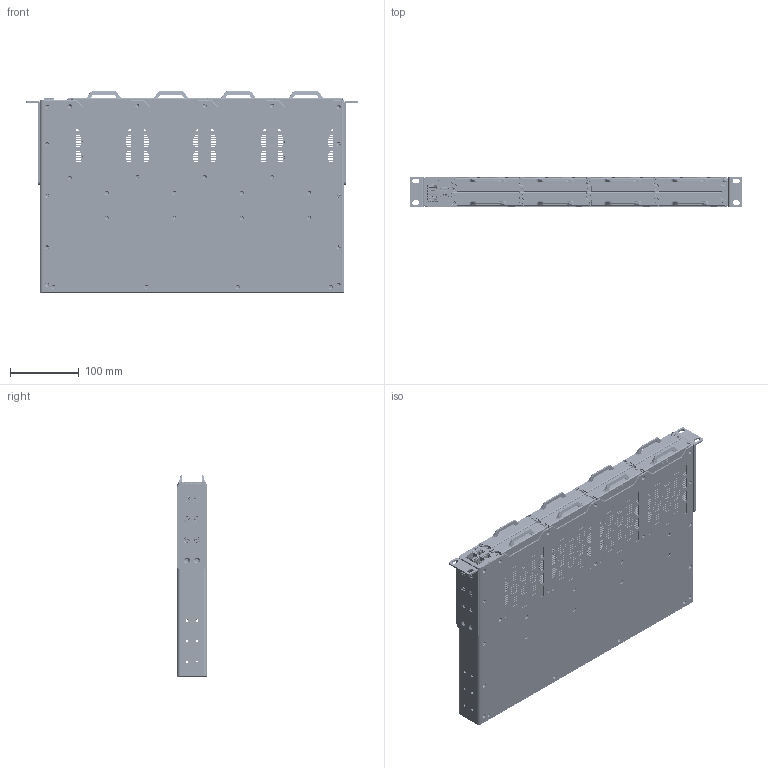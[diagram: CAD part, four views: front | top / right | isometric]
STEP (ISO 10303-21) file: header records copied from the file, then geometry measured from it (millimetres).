
FILE_DESCRIPTION((''),'2;1');
FILE_NAME('00-PT-G7828-VF_ASM','2017-11-10T',('CharlieSW_Chou'),('PTC'),'PRO/ENGINEER BY PARAMETRIC TECHNOLOGY CORPORATION, 2013230','PRO/ENGINEER BY PARAMETRIC TECHNOLOGY CORPORATION, 2013230','');
FILE_SCHEMA(('AUTOMOTIVE_DESIGN { 1 0 10303 214 1 1 1 1 }'));
Products named in the file (87): G7828-BOT-COVER; PIN-P3-H5; PIN-P3-H30; BSO-P55-H15; BSO-P55-H20; BSO-P55-H5; 02-G7828-BOT-COVER_ASM; IO-BEAM-VLIGHT-FORLED; M3-CU-TOOTH; LED-BEAM_ASM; IO-BEAM-VLIGHT; IO-BEAM34_ASM; IO-BEAM56_ASM; IO-BEAMP1P2_ASM; G7828-SW-LED; G7828-SW-MODULE; G7828-SW-MOD_ASM; G7828-F-PANEL; G7828-FRONT-NAMEPLATE; 02-G7828-FRONT-COVER_ASM; G7828-RL; G7828-RL-TAPE; KY-LP-LEM-133; LED-SPONGE; 02-G7828-RL_ASM; G7828_TOP_COVER; G7828-RR; G7828-RR-TAPE; 02-G7828-RR_ASM; GASKET-FLEXLINK; 1402221010031FMS3X5; 01-G7828-CASE_ASM; PCB-G7828-SUPER-CAP; RESET; C-1-2007492-5-C-3D; RMX-P110; RM1-P160; RM1-P110-LAST; RM1-C210______; RM1-C220_________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
Assembly tree (199 placements, depth 5):
  00-PT-G7828-VF_ASM
    01-G7828-CASE_ASM
      02-G7828-BOT-COVER_ASM
        G7828-BOT-COVER
        PIN-P3-H5  x8
        PIN-P3-H30  x4
        BSO-P55-H15  x8
        BSO-P55-H20  x5
        BSO-P55-H5  x18
      LED-BEAM_ASM
        IO-BEAM-VLIGHT-FORLED
        M3-CU-TOOTH  x2
      IO-BEAM34_ASM
        IO-BEAM-VLIGHT
        M3-CU-TOOTH  x4
      IO-BEAM56_ASM
        IO-BEAM-VLIGHT
        M3-CU-TOOTH  x4
      IO-BEAMP1P2_ASM
        IO-BEAM-VLIGHT
        M3-CU-TOOTH  x4
      G7828-SW-LED
      G7828-SW-MOD_ASM
        G7828-SW-MODULE
        M3-CU-TOOTH  x2
      02-G7828-FRONT-COVER_ASM
        G7828-F-PANEL
        G7828-FRONT-NAMEPLATE
      02-G7828-RL_ASM
        G7828-RL
        G7828-RL-TAPE
        KY-LP-LEM-133  x5
        LED-SPONGE
      G7828_TOP_COVER
      02-G7828-RR_ASM
        G7828-RR
        G7828-RR-TAPE
      GASKET-FLEXLINK
      1402221010031FMS3X5  x25
    01-G7828-PCB_ASM
      03-G7828-SUPER-CAP_ASM
        PCB-G7828-SUPER-CAP
        RESET
        C-1-2007492-5-C-3D
        RM3-136A000F_ASM
          RMX-P110
          RM1-P160  x4
          RM1-P110-LAST
          RM1-C210______
          RM1-C220_________
          RM2-S110-SW_W_O_SPRING
          RM2-S120-SW
          RM1-C120_LONG_3_2-__
          RM1-C120_LONG_3_2-__-1
          RM1-C120_LONG_3_2-__-2
          RM1-C120_LONG_3_2-__-3
          RM1-C120_LONG_3_2-__-4
          RM1-C120_SHORT_3_2-__
          RM1-C120_SHORT_3_2-__-1
          RM1-C120_SHORT_3_2-__-2
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Bounding box: 482.6 x 44 x 292.8 mm (x, y, z)
Volume: 997976.1 mm3; surface area: 1192190.9 mm2
Topology: 191 solids, 224 shells, 25850 faces, 69865 edges, 44911 vertices
Faces by surface type: plane 19137, cylinder 4669, cone 1121, bspline 552, torus 332, sphere 36, revolution 2, extrusion 1
Entity records: 390135 total; most frequent: CARTESIAN_POINT 74892, ORIENTED_EDGE 57042, DIRECTION 55135, EDGE_CURVE 28546, VECTOR 21093, LINE 21092, VERTEX_POINT 18326, AXIS2_PLACEMENT_3D 17020
